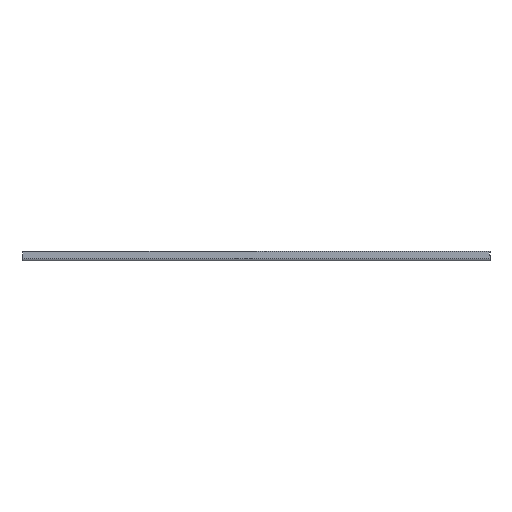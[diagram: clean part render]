
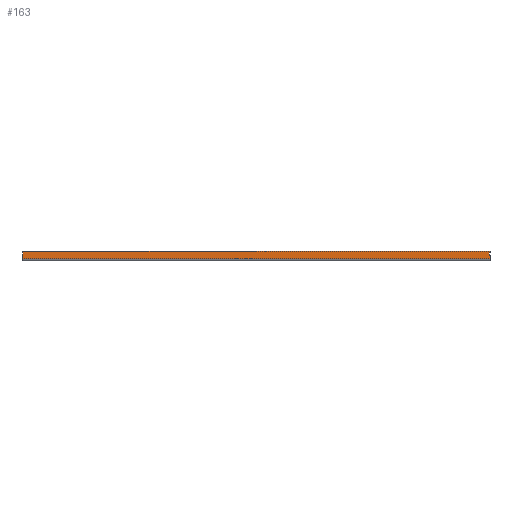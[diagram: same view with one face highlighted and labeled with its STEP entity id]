
A CAD part, left-side view. The second image highlights one B-rep face of the part: STEP entity #163.
In plain terms, the highlighted planar face has unit normal (-1, 0, 0).
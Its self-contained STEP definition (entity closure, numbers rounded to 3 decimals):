
#46 = VERTEX_POINT ( 'NONE', #2845 ) ;
#116 = EDGE_CURVE ( 'NONE', #3998, #2434, #624, .T. ) ;
#163 = ADVANCED_FACE ( 'NONE', ( #1903 ), #1983, .F. ) ;
#246 = CARTESIAN_POINT ( 'NONE',  ( -300., 991., 28.2 ) ) ;
#252 = CARTESIAN_POINT ( 'NONE',  ( -300., -994., 3. ) ) ;
#315 = DIRECTION ( 'NONE',  ( 0., 0., -1. ) ) ;
#339 = VERTEX_POINT ( 'NONE', #2869 ) ;
#345 = LINE ( 'NONE', #1941, #1110 ) ;
#357 = ORIENTED_EDGE ( 'NONE', *, *, #1919, .F. ) ;
#376 = VECTOR ( 'NONE', #4497, 1000. ) ;
#393 = DIRECTION ( 'NONE',  ( 0., 0., -1. ) ) ;
#457 = CARTESIAN_POINT ( 'NONE',  ( -300., 994., 17.8 ) ) ;
#514 = ORIENTED_EDGE ( 'NONE', *, *, #2945, .F. ) ;
#529 = VERTEX_POINT ( 'NONE', #748 ) ;
#585 = DIRECTION ( 'NONE',  ( 0., -1., 0. ) ) ;
#624 = LINE ( 'NONE', #4152, #4769 ) ;
#638 = ORIENTED_EDGE ( 'NONE', *, *, #3549, .T. ) ;
#640 = EDGE_CURVE ( 'NONE', #3998, #529, #878, .T. ) ;
#748 = CARTESIAN_POINT ( 'NONE',  ( -300., -994., 35. ) ) ;
#878 = LINE ( 'NONE', #3530, #2938 ) ;
#883 = CARTESIAN_POINT ( 'NONE',  ( -300., 994., 0. ) ) ;
#890 = LINE ( 'NONE', #2868, #376 ) ;
#944 = VECTOR ( 'NONE', #1212, 1000. ) ;
#952 = VECTOR ( 'NONE', #4422, 1000. ) ;
#978 = CARTESIAN_POINT ( 'NONE',  ( -300., -994.2, 17.8 ) ) ;
#1022 = CARTESIAN_POINT ( 'NONE',  ( -300., 994., 0. ) ) ;
#1054 = ORIENTED_EDGE ( 'NONE', *, *, #5057, .F. ) ;
#1070 = VERTEX_POINT ( 'NONE', #1336 ) ;
#1110 = VECTOR ( 'NONE', #4709, 1000. ) ;
#1149 = ORIENTED_EDGE ( 'NONE', *, *, #3105, .T. ) ;
#1181 = LINE ( 'NONE', #4681, #944 ) ;
#1207 = DIRECTION ( 'NONE',  ( 0., 0., 1. ) ) ;
#1212 = DIRECTION ( 'NONE',  ( 0., 1., 0. ) ) ;
#1248 = VERTEX_POINT ( 'NONE', #2314 ) ;
#1262 = CARTESIAN_POINT ( 'NONE',  ( -300., 991., 17.8 ) ) ;
#1292 = DIRECTION ( 'NONE',  ( 0., 0., -1. ) ) ;
#1320 = CARTESIAN_POINT ( 'NONE',  ( -300., 994., 35. ) ) ;
#1336 = CARTESIAN_POINT ( 'NONE',  ( -300., 994., 28.2 ) ) ;
#1504 = EDGE_CURVE ( 'NONE', #1248, #3582, #3634, .T. ) ;
#1903 = FACE_OUTER_BOUND ( 'NONE', #3662, .T. ) ;
#1919 = EDGE_CURVE ( 'NONE', #2672, #339, #345, .T. ) ;
#1933 = ORIENTED_EDGE ( 'NONE', *, *, #4371, .T. ) ;
#1941 = CARTESIAN_POINT ( 'NONE',  ( -300., 994., 3. ) ) ;
#1983 = PLANE ( 'NONE',  #2407 ) ;
#2005 = CARTESIAN_POINT ( 'NONE',  ( -300., 0., 0. ) ) ;
#2314 = CARTESIAN_POINT ( 'NONE',  ( -300., 991., 17.8 ) ) ;
#2407 = AXIS2_PLACEMENT_3D ( 'NONE', #2005, #3983, #393 ) ;
#2434 = VERTEX_POINT ( 'NONE', #4538 ) ;
#2439 = DIRECTION ( 'NONE',  ( 0., 1., 0. ) ) ;
#2603 = VECTOR ( 'NONE', #585, 1000. ) ;
#2672 = VERTEX_POINT ( 'NONE', #252 ) ;
#2790 = LINE ( 'NONE', #883, #952 ) ;
#2812 = EDGE_CURVE ( 'NONE', #4849, #1070, #4548, .T. ) ;
#2825 = CARTESIAN_POINT ( 'NONE',  ( -300., -994., 28.2 ) ) ;
#2845 = CARTESIAN_POINT ( 'NONE',  ( -300., -991., 17.8 ) ) ;
#2868 = CARTESIAN_POINT ( 'NONE',  ( -300., 990.8, 28.2 ) ) ;
#2869 = CARTESIAN_POINT ( 'NONE',  ( -300., 994., 3. ) ) ;
#2909 = EDGE_CURVE ( 'NONE', #529, #4849, #1181, .T. ) ;
#2938 = VECTOR ( 'NONE', #3995, 1000. ) ;
#2945 = EDGE_CURVE ( 'NONE', #46, #4555, #4032, .T. ) ;
#2967 = CARTESIAN_POINT ( 'NONE',  ( -300., -994., 17.8 ) ) ;
#2999 = LINE ( 'NONE', #3029, #4834 ) ;
#3029 = CARTESIAN_POINT ( 'NONE',  ( -300., -991., 0. ) ) ;
#3034 = VECTOR ( 'NONE', #1207, 1000. ) ;
#3105 = EDGE_CURVE ( 'NONE', #3582, #339, #2790, .T. ) ;
#3120 = ORIENTED_EDGE ( 'NONE', *, *, #4542, .T. ) ;
#3177 = CARTESIAN_POINT ( 'NONE',  ( -300., -994., 0. ) ) ;
#3264 = VERTEX_POINT ( 'NONE', #246 ) ;
#3413 = ORIENTED_EDGE ( 'NONE', *, *, #116, .F. ) ;
#3530 = CARTESIAN_POINT ( 'NONE',  ( -300., -994., 0. ) ) ;
#3549 = EDGE_CURVE ( 'NONE', #3264, #1248, #4016, .T. ) ;
#3582 = VERTEX_POINT ( 'NONE', #457 ) ;
#3634 = LINE ( 'NONE', #4693, #4082 ) ;
#3662 = EDGE_LOOP ( 'NONE', ( #3413, #4390, #4116, #4571, #3120, #638, #4269, #1149, #357, #1933, #514, #1054 ) ) ;
#3769 = DIRECTION ( 'NONE',  ( 0., 1., 0. ) ) ;
#3891 = DIRECTION ( 'NONE',  ( 0., 0., -1. ) ) ;
#3983 = DIRECTION ( 'NONE',  ( 1., 0., 0. ) ) ;
#3995 = DIRECTION ( 'NONE',  ( 0., 0., 1. ) ) ;
#3998 = VERTEX_POINT ( 'NONE', #2825 ) ;
#4016 = LINE ( 'NONE', #1262, #4349 ) ;
#4032 = LINE ( 'NONE', #978, #2603 ) ;
#4082 = VECTOR ( 'NONE', #2439, 1000. ) ;
#4116 = ORIENTED_EDGE ( 'NONE', *, *, #2909, .T. ) ;
#4152 = CARTESIAN_POINT ( 'NONE',  ( -300., -990.8, 28.2 ) ) ;
#4269 = ORIENTED_EDGE ( 'NONE', *, *, #1504, .T. ) ;
#4349 = VECTOR ( 'NONE', #1292, 1000. ) ;
#4371 = EDGE_CURVE ( 'NONE', #2672, #4555, #4724, .T. ) ;
#4390 = ORIENTED_EDGE ( 'NONE', *, *, #640, .T. ) ;
#4411 = VECTOR ( 'NONE', #315, 1000. ) ;
#4422 = DIRECTION ( 'NONE',  ( 0., 0., -1. ) ) ;
#4497 = DIRECTION ( 'NONE',  ( 0., -1., 0. ) ) ;
#4538 = CARTESIAN_POINT ( 'NONE',  ( -300., -991., 28.2 ) ) ;
#4542 = EDGE_CURVE ( 'NONE', #1070, #3264, #890, .T. ) ;
#4548 = LINE ( 'NONE', #1022, #4411 ) ;
#4555 = VERTEX_POINT ( 'NONE', #2967 ) ;
#4571 = ORIENTED_EDGE ( 'NONE', *, *, #2812, .T. ) ;
#4681 = CARTESIAN_POINT ( 'NONE',  ( -300., 0., 35. ) ) ;
#4693 = CARTESIAN_POINT ( 'NONE',  ( -300., 994.2, 17.8 ) ) ;
#4709 = DIRECTION ( 'NONE',  ( 0., 1., 0. ) ) ;
#4724 = LINE ( 'NONE', #3177, #3034 ) ;
#4769 = VECTOR ( 'NONE', #3769, 1000. ) ;
#4834 = VECTOR ( 'NONE', #3891, 1000. ) ;
#4849 = VERTEX_POINT ( 'NONE', #1320 ) ;
#5057 = EDGE_CURVE ( 'NONE', #2434, #46, #2999, .T. ) ;
